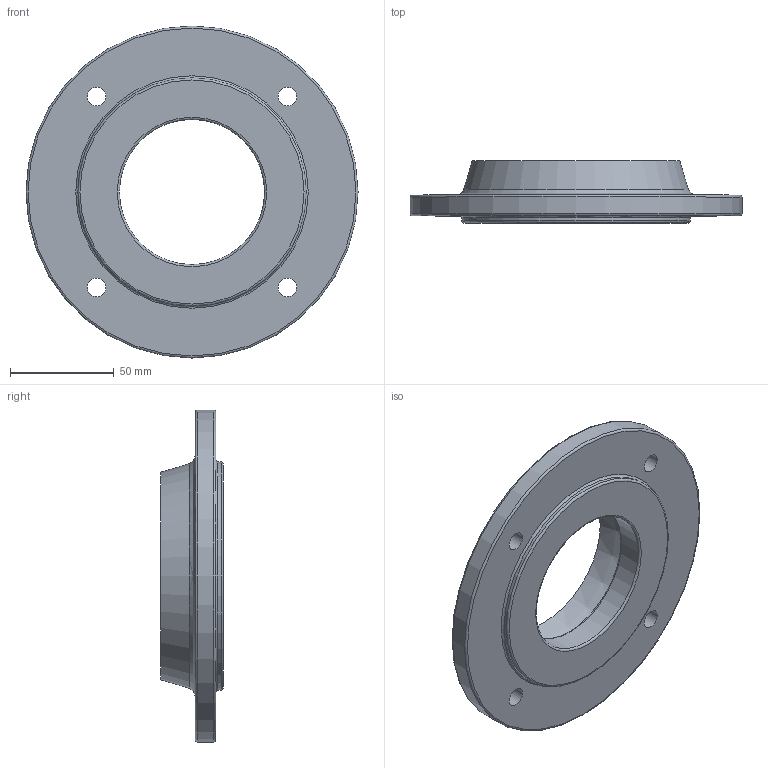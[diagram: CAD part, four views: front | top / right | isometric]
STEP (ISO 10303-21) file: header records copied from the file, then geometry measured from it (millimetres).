
FILE_DESCRIPTION((''),'2;1');
FILE_NAME('D:\PAWEŁ\ZLECENIA\DualSystem\001 Modele\DKAB30_\DK_30_STEP\AF_F_30.stp','2011-11-27T11:36:14',('Pawe'),(''),'Autodesk Inventor 2009','Autodesk Inventor 2009','');
FILE_SCHEMA(('AUTOMOTIVE_DESIGN { 1 0 10303 214 1 1 1 1 }'));
Length unit declared in the file: millimetre
Products named in the file (1): AF_F_30
Bounding box: 160 x 30 x 160 mm (x, y, z)
Volume: 237935.1 mm3; surface area: 50840 mm2
Topology: 1 solids, 1 shells, 21 faces, 45 edges, 29 vertices
Faces by surface type: bspline 6, plane 5, torus 5, cylinder 3, cone 2
Full cylindrical faces by diameter (mm): 70 x1, 110 x1, 160 x1
Entity records: 642 total; most frequent: CARTESIAN_POINT 228, DIRECTION 82, ORIENTED_EDGE 50, EDGE_LOOP 50, AXIS2_PLACEMENT_3D 41, FACE_BOUND 29, VERTEX_POINT 25, CIRCLE 25
